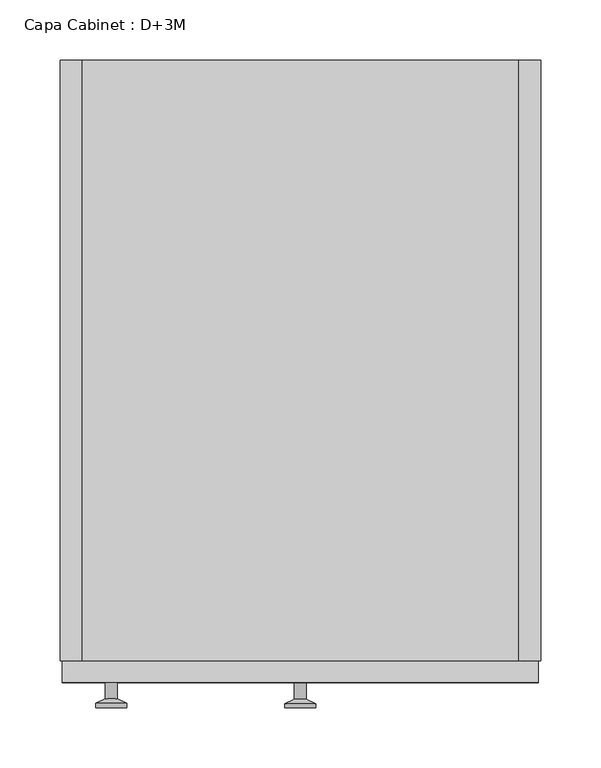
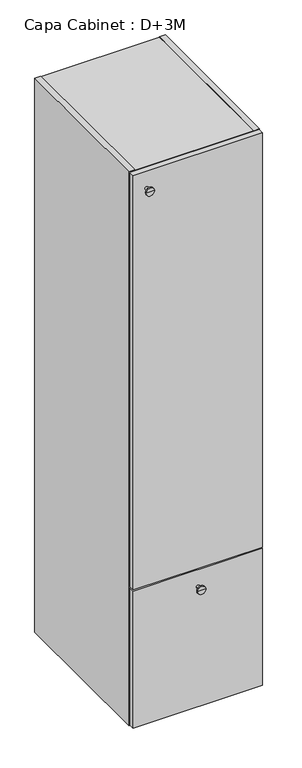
"""IFC4 building model written with IfcOpenShell, lengths in millimetres: furniture geometry, Capa Cabinet : D+3M."""

from ifc_helpers import new_model, si_unit, frame, origin, place, context, project, spatial, polyline, circle_curve, outline, extrude, faceted_brep, source, transform, mapped, element, save
from ifc_brep_helpers import plane_surface, cylinder_surface, revolved_surface, advanced_brep


def capa_cabinet_d_3m_af1f585b(model_context):
    return source(origin(), model_context, "Body", "SolidModel", [
        extrude(outline(polyline([(182.0, 0.0), (-182.0, 0.0), (-182.0, 490.0), (182.0, 490.0), (182.0, 0.0)])), frame((0.0, 0.0, 1337.0), z_axis=(0.0, 0.0, 1.0), x_axis=(1.0, 0.0, 0.0)), (0.0, 0.0, 1.0), 14.0),
        extrude(outline(polyline([(182.0, 0.0), (-182.0, 0.0), (-182.0, 490.0), (182.0, 490.0), (182.0, 0.0)])), frame((0.0, 0.0, 889.0), z_axis=(0.0, 0.0, 1.0), x_axis=(1.0, 0.0, 0.0)), (0.0, 0.0, 1.0), 14.0),
        extrude(outline(polyline([(182.0, 0.0), (-182.0, 0.0), (-182.0, 490.0), (182.0, 490.0), (182.0, 0.0)])), frame((0.0, 0.0, 441.0), z_axis=(0.0, 0.0, 1.0), x_axis=(1.0, 0.0, 0.0)), (0.0, 0.0, 1.0), 14.0),
        faceted_brep([(-182.0, 500.0, 1792.0), (-182.0, 500.0, 1791.0), (182.0, 500.0, 1791.0), (182.0, 500.0, 1792.0), (200.0, 500.0, 1792.0), (200.0, 500.0, 0.0), (182.0, 500.0, 0.0), (182.0, 500.0, 1.0), (-182.0, 500.0, 1.0), (-182.0, 500.0, 0.0), (-200.0, 500.0, 0.0), (-200.0, 500.0, 1792.0), (182.0, 490.0, 19.0), (182.0, 490.0, 1773.0), (-182.0, 490.0, 1773.0), (-182.0, 490.0, 19.0), (-182.0, 0.0, 1792.0), (-200.0, 0.0, 1792.0), (-200.0, 0.0, 0.0), (-182.0, 0.0, 0.0), (-182.0, 0.0, 1.0), (182.0, 0.0, 1.0), (182.0, 0.0, 0.0), (200.0, 0.0, 0.0), (200.0, 0.0, 1792.0), (182.0, 0.0, 1792.0), (182.0, 0.0, 1791.0), (-182.0, 0.0, 1791.0), (182.0, 0.0, 1773.0), (182.0, 0.0, 19.0), (-182.0, 0.0, 19.0), (-182.0, 0.0, 1773.0)], [[[0, 1, 2, 3, 4, 5, 6, 7, 8, 9, 10, 11]], [[12, 13, 14, 15]], [[16, 17, 18, 19, 20, 21, 22, 23, 24, 25, 26, 27], [28, 29, 30, 31]], [[17, 16, 0, 11]], [[18, 17, 11, 10]], [[23, 22, 6, 5]], [[24, 23, 5, 4]], [[19, 18, 10, 9]], [[20, 19, 9, 8]], [[21, 20, 8, 7]], [[22, 21, 7, 6]], [[25, 24, 4, 3]], [[26, 25, 3, 2]], [[27, 26, 2, 1]], [[16, 27, 1, 0]], [[29, 28, 13, 12]], [[30, 29, 12, 15]], [[31, 30, 15, 14]], [[28, 31, 14, 13]]]),
        extrude(outline(polyline([(198.0, -18.0), (-198.0, -18.0), (-198.0, 0.0), (198.0, 0.0), (198.0, -18.0)])), frame((0.0, 0.0, 2.0), z_axis=(0.0, 0.0, 1.0), x_axis=(1.0, 0.0, 0.0)), (0.0, 0.0, 1.0), 444.0),
        advanced_brep(
        [(0.0, -18.0, 392.0), (5.0, -18.0, 392.0), (-5.0, -18.0, 392.0), (-13.0, -38.997134, 392.0), (13.0, -38.997134, 392.0), (0.0, -38.997134, 392.0), (-13.0, -35.5419417, 392.0), (13.0, -35.5419417, 392.0), (-5.0, -31.8114804, 392.0), (5.0, -31.8114804, 392.0)],
        [
            (0, 1),
            (1, 2, circle_curve(frame((0.0, -18.0, 392.0), z_axis=(0.0, 1.0, 0.0), x_axis=(1.0, 0.0, 0.0)), 5.0)),
            (2, 0),
            (2, 1, circle_curve(frame((0.0, -18.0, 392.0), z_axis=(0.0, 1.0, 0.0), x_axis=(1.0, 0.0, 0.0)), 5.0)),
            (3, 4, circle_curve(frame((0.0, -38.997134, 392.0), z_axis=(0.0, -1.0, 0.0), x_axis=(1.0, 0.0, 0.0)), 13.0)),
            (4, 5),
            (5, 3),
            (4, 3, circle_curve(frame((0.0, -38.997134, 392.0), z_axis=(0.0, -1.0, 0.0), x_axis=(1.0, 0.0, 0.0)), 13.0)),
            (6, 7, circle_curve(frame((0.0, -35.5419417, 392.0), z_axis=(0.0, -1.0, 0.0), x_axis=(1.0, 0.0, 0.0)), 13.0)),
            (7, 4),
            (3, 6),
            (7, 6, circle_curve(frame((0.0, -35.5419417, 392.0), z_axis=(0.0, -1.0, 0.0), x_axis=(1.0, 0.0, 0.0)), 13.0)),
            (8, 9, circle_curve(frame((0.0, -31.8114804, 392.0), z_axis=(0.0, -1.0, 0.0), x_axis=(1.0, 0.0, 0.0)), 5.0)),
            (9, 7),
            (6, 8),
            (9, 8, circle_curve(frame((0.0, -31.8114804, 392.0), z_axis=(0.0, -1.0, 0.0), x_axis=(1.0, 0.0, 0.0)), 5.0)),
            (1, 9),
            (8, 2),
        ],
        [
            plane_surface(frame((0.0, -18.0, 392.0), z_axis=(0.0, 1.0, 0.0), x_axis=(1.0, 0.0, 0.0))),
            plane_surface(frame((0.0, -38.997134, 392.0), z_axis=(0.0, -1.0, 0.0), x_axis=(1.0, 0.0, 0.0))),
            cylinder_surface(frame((0.0, -38.997134, 392.0), z_axis=(0.0, 1.0, 0.0), x_axis=(1.0, 0.0, 0.0)), 13.0),
            revolved_surface(polyline([(13.0, -35.5419417, 392.0), (5.0, -31.8114804, 392.0)]), (0.0, -38.997134, 392.0), (0.0, 1.0, 0.0)),
            cylinder_surface(frame((0.0, -38.997134, 392.0), z_axis=(0.0, 1.0, 0.0), x_axis=(1.0, 0.0, 0.0)), 5.0),
        ],
        [
            (0, [[1, 2, 3]]),
            (0, [[-3, 4, -1]]),
            (1, [[5, 6, 7]]),
            (1, [[8, -7, -6]]),
            (2, [[9, 10, -5, 11]]),
            (2, [[12, -11, -8, -10]]),
            (3, [[13, 14, -9, 15]]),
            (3, [[16, -15, -12, -14]]),
            (4, [[-2, 17, -13, 18]]),
            (4, [[-4, -18, -16, -17]]),
        ],
    ),
        extrude(outline(polyline([(198.0, -18.0), (-198.0, -18.0), (-198.0, 0.0), (198.0, 0.0), (198.0, -18.0)])), frame((0.0, 0.0, 450.0), z_axis=(0.0, 0.0, 1.0), x_axis=(1.0, 0.0, 0.0)), (0.0, 0.0, 1.0), 1340.0),
        advanced_brep(
        [(-157.2922597, -18.0, 1736.0), (-152.2922597, -18.0, 1736.0), (-162.2922597, -18.0, 1736.0), (-170.2922597, -38.997134, 1736.0), (-144.2922597, -38.997134, 1736.0), (-157.2922597, -38.997134, 1736.0), (-170.2922597, -35.5419417, 1736.0), (-144.2922597, -35.5419417, 1736.0), (-162.2922597, -31.8114804, 1736.0), (-152.2922597, -31.8114804, 1736.0)],
        [
            (0, 1),
            (1, 2, circle_curve(frame((-157.2922597, -18.0, 1736.0), z_axis=(0.0, 1.0, 0.0), x_axis=(1.0, 0.0, 0.0)), 5.0)),
            (2, 0),
            (2, 1, circle_curve(frame((-157.2922597, -18.0, 1736.0), z_axis=(0.0, 1.0, 0.0), x_axis=(1.0, 0.0, 0.0)), 5.0)),
            (3, 4, circle_curve(frame((-157.2922597, -38.997134, 1736.0), z_axis=(0.0, -1.0, 0.0), x_axis=(1.0, 0.0, 0.0)), 13.0)),
            (4, 5),
            (5, 3),
            (4, 3, circle_curve(frame((-157.2922597, -38.997134, 1736.0), z_axis=(0.0, -1.0, 0.0), x_axis=(1.0, 0.0, 0.0)), 13.0)),
            (6, 7, circle_curve(frame((-157.2922597, -35.5419417, 1736.0), z_axis=(0.0, -1.0, 0.0), x_axis=(1.0, 0.0, 0.0)), 13.0)),
            (7, 4),
            (3, 6),
            (7, 6, circle_curve(frame((-157.2922597, -35.5419417, 1736.0), z_axis=(0.0, -1.0, 0.0), x_axis=(1.0, 0.0, 0.0)), 13.0)),
            (8, 9, circle_curve(frame((-157.2922597, -31.8114804, 1736.0), z_axis=(0.0, -1.0, 0.0), x_axis=(1.0, 0.0, 0.0)), 5.0)),
            (9, 7),
            (6, 8),
            (9, 8, circle_curve(frame((-157.2922597, -31.8114804, 1736.0), z_axis=(0.0, -1.0, 0.0), x_axis=(1.0, 0.0, 0.0)), 5.0)),
            (1, 9),
            (8, 2),
        ],
        [
            plane_surface(frame((-157.2922597, -18.0, 1736.0), z_axis=(0.0, 1.0, 0.0), x_axis=(1.0, 0.0, 0.0))),
            plane_surface(frame((-157.2922597, -38.997134, 1736.0), z_axis=(0.0, -1.0, 0.0), x_axis=(1.0, 0.0, 0.0))),
            cylinder_surface(frame((-157.2922597, -38.997134, 1736.0), z_axis=(0.0, 1.0, 0.0), x_axis=(1.0, 0.0, 0.0)), 13.0),
            revolved_surface(polyline([(-144.2922597, -35.5419417, 1736.0), (-152.2922597, -31.8114804, 1736.0)]), (-157.2922597, -38.997134, 1736.0), (0.0, 1.0, 0.0)),
            cylinder_surface(frame((-157.2922597, -38.997134, 1736.0), z_axis=(0.0, 1.0, 0.0), x_axis=(1.0, 0.0, 0.0)), 5.0),
        ],
        [
            (0, [[1, 2, 3]]),
            (0, [[-3, 4, -1]]),
            (1, [[5, 6, 7]]),
            (1, [[8, -7, -6]]),
            (2, [[9, 10, -5, 11]]),
            (2, [[12, -11, -8, -10]]),
            (3, [[13, 14, -9, 15]]),
            (3, [[16, -15, -12, -14]]),
            (4, [[-2, 17, -13, 18]]),
            (4, [[-4, -18, -16, -17]]),
        ],
    ),
    ])


if __name__ == "__main__":
    model = new_model("IFC4")
    model_context = context("Model", 3, world=origin())
    ifc_project = project(units=[si_unit("LENGTHUNIT", "METRE", prefix="MILLI")], contexts=[model_context])
    site = spatial("IfcSite", under=ifc_project)
    building = spatial("IfcBuilding", under=site)
    placement = place(None, origin())
    capa_cabinet_d_3m_shape = capa_cabinet_d_3m_af1f585b(model_context)
    element("IfcFurniture", 1, ObjectType="Capa Cabinet : D+3M", at=placement, inside=building, context=model_context, shape_type="MappedRepresentation", body=[
        mapped(capa_cabinet_d_3m_shape, transform((0.0, 0.0, 0.0), x_axis=(1.0, 0.0, 0.0), y_axis=(0.0, 1.0, 0.0), z_axis=(0.0, 0.0, 1.0))),
    ])
    save(model, "model.ifc")
